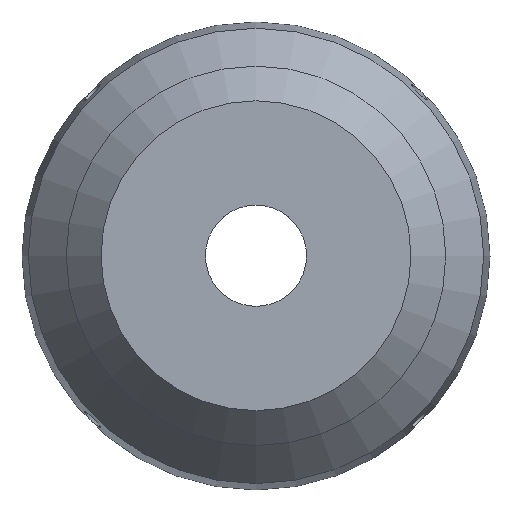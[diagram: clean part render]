
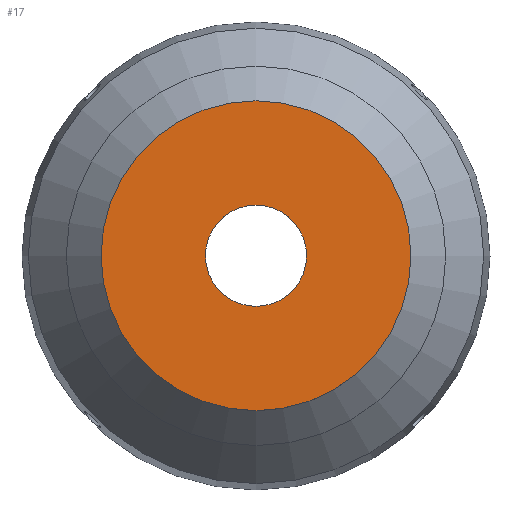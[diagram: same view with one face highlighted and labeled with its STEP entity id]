
A CAD part, top view. The second image highlights one B-rep face of the part: STEP entity #17.
In plain terms, the highlighted planar face has unit normal (0, 0, 1).
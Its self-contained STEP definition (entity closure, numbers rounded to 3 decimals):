
#17 = ADVANCED_FACE('',(#18,#29),#40,.T.);
#18 = FACE_BOUND('',#19,.T.);
#19 = EDGE_LOOP('',(#20));
#20 = ORIENTED_EDGE('',*,*,#21,.T.);
#21 = EDGE_CURVE('',#22,#22,#24,.T.);
#22 = VERTEX_POINT('',#23);
#23 = CARTESIAN_POINT('',(24.5,0.,168.));
#24 = CIRCLE('',#25,24.5);
#25 = AXIS2_PLACEMENT_3D('',#26,#27,#28);
#26 = CARTESIAN_POINT('',(0.,0.,168.));
#27 = DIRECTION('',(0.,0.,1.));
#28 = DIRECTION('',(1.,0.,0.));
#29 = FACE_BOUND('',#30,.T.);
#30 = EDGE_LOOP('',(#31));
#31 = ORIENTED_EDGE('',*,*,#32,.F.);
#32 = EDGE_CURVE('',#33,#33,#35,.T.);
#33 = VERTEX_POINT('',#34);
#34 = CARTESIAN_POINT('',(8.,0.,168.));
#35 = CIRCLE('',#36,8.);
#36 = AXIS2_PLACEMENT_3D('',#37,#38,#39);
#37 = CARTESIAN_POINT('',(0.,0.,168.));
#38 = DIRECTION('',(0.,0.,1.));
#39 = DIRECTION('',(1.,0.,0.));
#40 = PLANE('',#41);
#41 = AXIS2_PLACEMENT_3D('',#42,#43,#44);
#42 = CARTESIAN_POINT('',(0.,0.,168.));
#43 = DIRECTION('',(0.,0.,1.));
#44 = DIRECTION('',(1.,0.,0.));
